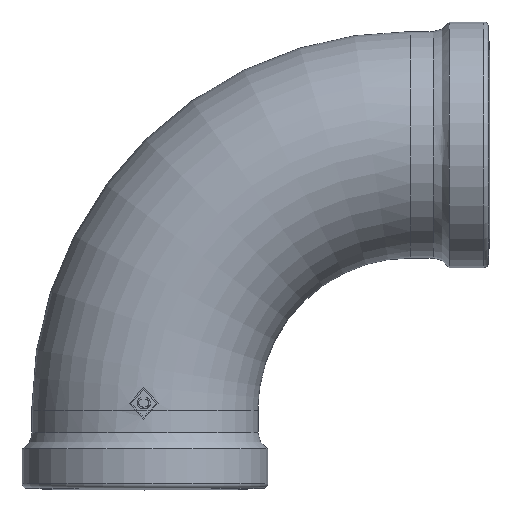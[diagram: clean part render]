
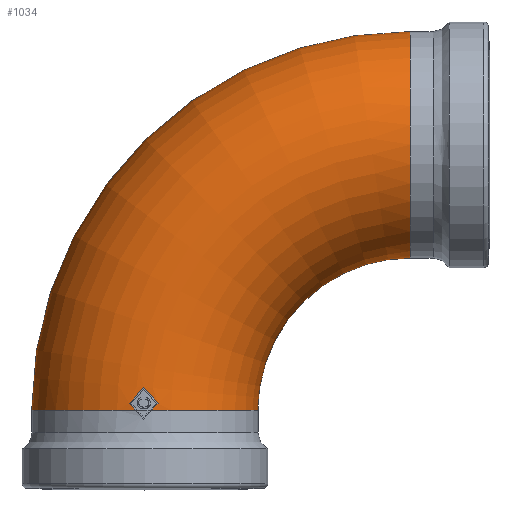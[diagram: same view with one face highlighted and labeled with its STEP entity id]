
A CAD part, top view. The second image highlights one B-rep face of the part: STEP entity #1034.
In plain terms, the highlighted toroidal (fillet/blend) face has major radius 58.5 mm and minor radius 24.95 mm.
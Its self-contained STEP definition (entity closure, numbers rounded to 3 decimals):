
#286=CARTESIAN_POINT('',(-3.406,19.025,24.714));
#287=VERTEX_POINT('',#286);
#294=CARTESIAN_POINT('',(-2.034,17.5,24.867));
#295=VERTEX_POINT('',#294);
#296=CARTESIAN_POINT('',(-2.034,17.5,24.867));
#297=CARTESIAN_POINT('',(-2.487,18.003,24.83));
#298=CARTESIAN_POINT('',(-2.945,18.513,24.779));
#299=CARTESIAN_POINT('',(-3.406,19.025,24.714));
#300=B_SPLINE_CURVE_WITH_KNOTS('',3,(#296,#297,#298,#299),.UNSPECIFIED.,.F.,.U.,(4,4),(3.836,4.028),.UNSPECIFIED.);
#301=EDGE_CURVE('',#295,#287,#300,.T.);
#328=CARTESIAN_POINT('',(-0.257,22.524,24.946));
#329=VERTEX_POINT('',#328);
#336=CARTESIAN_POINT('',(-3.406,19.025,24.714));
#337=CARTESIAN_POINT('',(-2.332,20.218,24.859));
#338=CARTESIAN_POINT('',(-1.269,21.4,24.928));
#339=CARTESIAN_POINT('',(-0.257,22.524,24.946));
#340=B_SPLINE_CURVE_WITH_KNOTS('',3,(#336,#337,#338,#339),.UNSPECIFIED.,.F.,.U.,(4,4),(27.093,27.538),.UNSPECIFIED.);
#341=EDGE_CURVE('',#287,#329,#340,.T.);
#354=CARTESIAN_POINT('',(1.519,17.5,24.904));
#355=VERTEX_POINT('',#354);
#363=CARTESIAN_POINT('',(2.891,19.025,24.784));
#364=VERTEX_POINT('',#363);
#365=CARTESIAN_POINT('',(2.891,19.025,24.784));
#366=CARTESIAN_POINT('',(2.429,18.511,24.836));
#367=CARTESIAN_POINT('',(1.97,18.001,24.876));
#368=CARTESIAN_POINT('',(1.519,17.5,24.904));
#369=B_SPLINE_CURVE_WITH_KNOTS('',3,(#365,#366,#367,#368),.UNSPECIFIED.,.F.,.U.,(4,4),(3.437,3.629),.UNSPECIFIED.);
#370=EDGE_CURVE('',#364,#355,#369,.T.);
#389=CARTESIAN_POINT('',(-0.257,22.524,24.946));
#390=CARTESIAN_POINT('',(0.06,22.171,24.952));
#391=CARTESIAN_POINT('',(0.369,21.828,24.951));
#392=CARTESIAN_POINT('',(0.687,21.475,24.944));
#393=CARTESIAN_POINT('',(1.401,20.681,24.927));
#394=CARTESIAN_POINT('',(2.14,19.86,24.874));
#395=CARTESIAN_POINT('',(2.891,19.025,24.784));
#396=B_SPLINE_CURVE_WITH_KNOTS('',3,(#389,#390,#391,#392,#393,#394,#395),.UNSPECIFIED.,.F.,.U.,(4,3,4),(28.801,28.941,29.255),.UNSPECIFIED.);
#397=EDGE_CURVE('',#329,#364,#396,.T.);
#1001=CARTESIAN_POINT('',(0.0,17.5,0.0));
#1002=DIRECTION('',(0.0,-1.0,0.0));
#1003=DIRECTION('',(1.0,0.0,0.0));
#1004=AXIS2_PLACEMENT_3D('',#1001,#1002,#1003);
#1005=CIRCLE('',#1004,24.95);
#1006=EDGE_CURVE('',#295,#355,#1005,.T.);
#1011=CARTESIAN_POINT('',(58.5,17.5,0.0));
#1012=DIRECTION('',(0.0,0.0,-1.0));
#1013=DIRECTION('',(-1.0,0.0,0.0));
#1014=AXIS2_PLACEMENT_3D('',#1011,#1012,#1013);
#1015=TOROIDAL_SURFACE('',#1014,58.5,24.95);
#1016=ORIENTED_EDGE('',*,*,#370,.T.);
#1017=ORIENTED_EDGE('',*,*,#1006,.F.);
#1018=ORIENTED_EDGE('',*,*,#301,.T.);
#1019=ORIENTED_EDGE('',*,*,#341,.T.);
#1020=ORIENTED_EDGE('',*,*,#397,.T.);
#1021=EDGE_LOOP('',(#1016,#1017,#1018,#1019,#1020));
#1022=FACE_OUTER_BOUND('',#1021,.T.);
#1023=CARTESIAN_POINT('',(58.5,100.95,0.));
#1024=VERTEX_POINT('',#1023);
#1025=CARTESIAN_POINT('',(58.5,76.,0.0));
#1026=DIRECTION('',(-1.0,0.0,0.0));
#1027=DIRECTION('',(0.0,-1.0,0.0));
#1028=AXIS2_PLACEMENT_3D('',#1025,#1026,#1027);
#1029=CIRCLE('',#1028,24.95);
#1030=EDGE_CURVE('',#1024,#1024,#1029,.T.);
#1031=ORIENTED_EDGE('',*,*,#1030,.T.);
#1032=EDGE_LOOP('',(#1031));
#1033=FACE_BOUND('',#1032,.T.);
#1034=ADVANCED_FACE('',(#1022,#1033),#1015,.T.);
